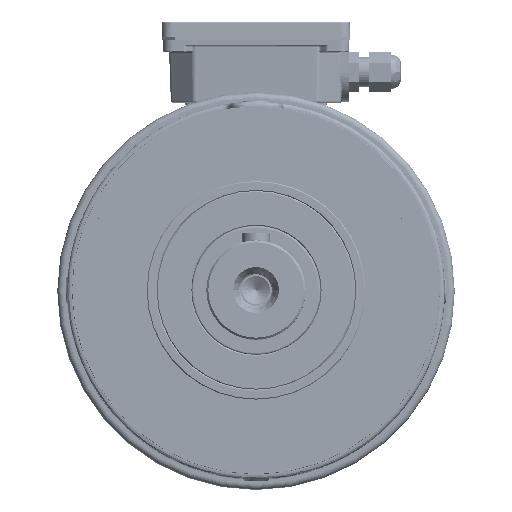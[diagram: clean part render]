
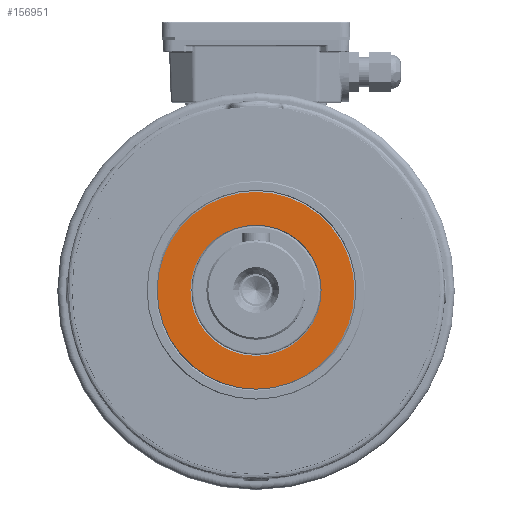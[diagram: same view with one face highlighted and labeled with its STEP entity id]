
A CAD part, top view. The second image highlights one B-rep face of the part: STEP entity #156951.
In plain terms, the highlighted planar face has unit normal (0, 0, 1) as drawn and (0, 0, -1) by its records, which use the part's own axes.
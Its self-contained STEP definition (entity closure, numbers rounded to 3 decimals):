
#2888 = ORIENTED_EDGE ( 'NONE', *, *, #116158, .F. ) ;
#2961 = ORIENTED_EDGE ( 'NONE', *, *, #116411, .F. ) ;
#3029 = ORIENTED_EDGE ( 'NONE', *, *, #116328, .F. ) ;
#3035 = ORIENTED_EDGE ( 'NONE', *, *, #116253, .F. ) ;
#16116 = EDGE_LOOP ( 'NONE', ( #2888, #3029 ) ) ;
#16177 = EDGE_LOOP ( 'NONE', ( #2961, #3035 ) ) ;
#24318 = VERTEX_POINT ( 'NONE', #80512 ) ;
#24360 = VERTEX_POINT ( 'NONE', #80537 ) ;
#24364 = VERTEX_POINT ( 'NONE', #80598 ) ;
#24400 = VERTEX_POINT ( 'NONE', #80568 ) ;
#42869 = CARTESIAN_POINT ( 'NONE',  ( -33., 0., 0. ) ) ;
#42874 = PLANE ( 'NONE',  #63692 ) ;
#42908 = DIRECTION ( 'NONE',  ( 0., 0., 1. ) ) ;
#42922 = DIRECTION ( 'NONE',  ( 0., -1., 0. ) ) ;
#63692 = AXIS2_PLACEMENT_3D ( 'NONE', #42869, #42908, #42922 ) ;
#66042 = FACE_BOUND ( 'NONE', #16177, .T. ) ;
#66159 = FACE_OUTER_BOUND ( 'NONE', #16116, .T. ) ;
#80512 = CARTESIAN_POINT ( 'NONE',  ( 49.5, 0., 0. ) ) ;
#80537 = CARTESIAN_POINT ( 'NONE',  ( -33., 0., 0. ) ) ;
#80568 = CARTESIAN_POINT ( 'NONE',  ( 33., 0., 0. ) ) ;
#80598 = CARTESIAN_POINT ( 'NONE',  ( -49.5, 0., 0. ) ) ;
#85475 = CIRCLE ( 'NONE', #162777, 33. ) ;
#85527 = CIRCLE ( 'NONE', #162697, 49.5 ) ;
#85635 = CIRCLE ( 'NONE', #162650, 33. ) ;
#85720 = CIRCLE ( 'NONE', #162646, 49.5 ) ;
#116158 = EDGE_CURVE ( 'NONE', #24318, #24364, #85527, .T. ) ;
#116253 = EDGE_CURVE ( 'NONE', #24400, #24360, #85475, .T. ) ;
#116328 = EDGE_CURVE ( 'NONE', #24364, #24318, #85720, .T. ) ;
#116411 = EDGE_CURVE ( 'NONE', #24360, #24400, #85635, .T. ) ;
#148295 = CARTESIAN_POINT ( 'NONE',  ( 0., 0., 0. ) ) ;
#148338 = DIRECTION ( 'NONE',  ( 1., 0., 0. ) ) ;
#148340 = DIRECTION ( 'NONE',  ( 0., 0., 1. ) ) ;
#148405 = CARTESIAN_POINT ( 'NONE',  ( 0., 0., 0. ) ) ;
#148406 = DIRECTION ( 'NONE',  ( 0., 0., -1. ) ) ;
#148487 = DIRECTION ( 'NONE',  ( -1., 0., 0. ) ) ;
#148492 = CARTESIAN_POINT ( 'NONE',  ( 0., 0., 0. ) ) ;
#148494 = DIRECTION ( 'NONE',  ( 0., 0., 1. ) ) ;
#148495 = DIRECTION ( 'NONE',  ( 1., 0., 0. ) ) ;
#148593 = CARTESIAN_POINT ( 'NONE',  ( 0., 0., 0. ) ) ;
#148597 = DIRECTION ( 'NONE',  ( 0., 0., -1. ) ) ;
#148612 = DIRECTION ( 'NONE',  ( -1., 0., 0. ) ) ;
#156951 = ADVANCED_FACE ( 'NONE', ( #66042, #66159 ), #42874, .F. ) ;
#162646 = AXIS2_PLACEMENT_3D ( 'NONE', #148492, #148494, #148495 ) ;
#162650 = AXIS2_PLACEMENT_3D ( 'NONE', #148593, #148597, #148612 ) ;
#162697 = AXIS2_PLACEMENT_3D ( 'NONE', #148295, #148340, #148338 ) ;
#162777 = AXIS2_PLACEMENT_3D ( 'NONE', #148405, #148406, #148487 ) ;
